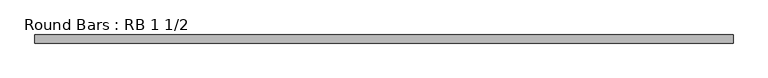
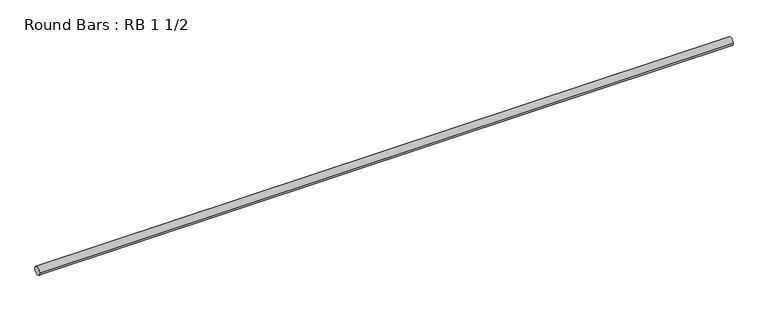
"""IFC4 building model written with IfcOpenShell, lengths in millimetres: member geometry, Round Bars : RB 1 1/2."""

import ifcopenshell
import ifcopenshell.guid

model = None  # the IFC model being written
_history = None  # IfcOwnerHistory: only IFC2X3 demands one
_inside = {}  # id of a spatial element -> (the spatial element, [elements in it])
_under = {}  # id of a project, library or spatial element -> (it, [spatial elements below it])
_declared = {}  # id of a project -> (the project, [libraries it declares])
_typed = {}  # id of a type object -> (the type object, [elements of that type])
_made_of = {}  # id of a material, layer set ... -> (it, [elements and type objects made of it])


def new_model(schema):
    """Start an empty IFC model of exactly this schema.

    Asked for "IFC4X3", IfcOpenShell would pick the latest addendum, in which some entities
    have other attributes; the version numbers below select the first issue.
    IFC2X3 requires an IfcOwnerHistory on every rooted entity: one is made here for all.
    """
    global model, _history
    if schema == "IFC4X3":
        model = ifcopenshell.file(schema_version=(4, 3, 0, 0))
    else:
        model = ifcopenshell.file(schema=schema)
    _inside.clear()
    _under.clear()
    _declared.clear()
    _typed.clear()
    _made_of.clear()
    _history = None
    if model.schema == "IFC2X3":
        org = make("IfcOrganization", Name="unknown")
        user = make(
            "IfcPersonAndOrganization",
            ThePerson=make("IfcPerson", FamilyName="unknown"),
            TheOrganization=org,
        )
        app = make(
            "IfcApplication",
            ApplicationDeveloper=org,
            Version="unknown",
            ApplicationFullName="unknown",
            ApplicationIdentifier="unknown",
        )
        _history = make(
            "IfcOwnerHistory",
            OwningUser=user,
            OwningApplication=app,
            ChangeAction="ADDED",
            CreationDate=0,
        )
    return model


def make(cls, **values):
    """One entity of the class cls with the attributes given. An attribute that is None is left unset."""
    return model.create_entity(
        cls, **{name: value for name, value in values.items() if value is not None}
    )


def rooted(cls, **values):
    """An entity with a GlobalId (a new one), such as an element, a storey or a relation."""
    return make(cls, GlobalId=ifcopenshell.guid.new(), OwnerHistory=_history, **values)


def si_unit(unit_type, name, prefix=None):
    """IfcSIUnit, for example si_unit("LENGTHUNIT", "METRE", prefix="MILLI")."""
    return make("IfcSIUnit", UnitType=unit_type, Prefix=prefix, Name=name)


def assignment(units):
    """IfcUnitAssignment: the units of a project."""
    return None if units is None else make("IfcUnitAssignment", Units=units)


def point(xyz):
    """IfcCartesianPoint."""
    return None if xyz is None else make("IfcCartesianPoint", Coordinates=xyz)


def direction(xyz):
    """IfcDirection."""
    return None if xyz is None else make("IfcDirection", DirectionRatios=xyz)


def frame(location, z_axis=None, x_axis=None):
    """IfcAxis2Placement3D, a coordinate frame: its origin and axes. An axis left out is left unset."""
    return make(
        "IfcAxis2Placement3D",
        Location=point(location),
        Axis=direction(z_axis),
        RefDirection=direction(x_axis),
    )


def frame_2d(location, x_axis=None):
    """IfcAxis2Placement2D, a coordinate frame in the plane: its origin and x axis."""
    return make(
        "IfcAxis2Placement2D", Location=point(location), RefDirection=direction(x_axis)
    )


def origin():
    """The frame at (0, 0, 0) with its axes left unset."""
    return frame((0.0, 0.0, 0.0))


def origin_2d():
    """The frame at (0, 0) in the plane with its x axis left unset."""
    return frame_2d((0.0, 0.0))


def place(relative_to, where):
    """IfcLocalPlacement: puts the frame where relative to a parent placement (None: the world)."""
    return make(
        "IfcLocalPlacement", PlacementRelTo=relative_to, RelativePlacement=where
    )


def context(
    kind, dimensions, precision=None, world=None, true_north=None, identifier=None
):
    """IfcGeometricRepresentationContext, for example the 3D "Model" context."""
    return make(
        "IfcGeometricRepresentationContext",
        ContextIdentifier=identifier,
        ContextType=kind,
        CoordinateSpaceDimension=dimensions,
        Precision=precision,
        WorldCoordinateSystem=world,
        TrueNorth=true_north,
    )


def project(units=None, contexts=None):
    """IfcProject with its units and contexts."""
    return rooted(
        "IfcProject",
        Name="project",
        RepresentationContexts=contexts,
        UnitsInContext=assignment(units),
    )


def spatial(cls, under=None, at=None, **own):
    """A site, building, storey or space (cls), placed at a placement, below another one or the project."""
    s = rooted(cls, ObjectPlacement=at, **own)
    if under is not None:
        _under.setdefault(under.id(), (under, []))[1].append(s)
    return s


def circle_curve(where, radius):
    """IfcCircle in the frame where."""
    return make("IfcCircle", Position=where, Radius=radius)


def trimmed(basis, trim1, trim2, sense, master):
    """IfcTrimmedCurve: the piece of a basis curve between two trims."""
    return make(
        "IfcTrimmedCurve",
        BasisCurve=basis,
        Trim1=trim1,
        Trim2=trim2,
        SenseAgreement=sense,
        MasterRepresentation=master,
    )


def segment(curve, same_sense, transition):
    """IfcCompositeCurveSegment."""
    return make(
        "IfcCompositeCurveSegment",
        Transition=transition,
        SameSense=same_sense,
        ParentCurve=curve,
    )


def composite_curve(segments, self_intersect=None):
    """IfcCompositeCurve: segments joined end to end."""
    return make("IfcCompositeCurve", Segments=segments, SelfIntersect=self_intersect)


def outline(outer, holes=None, kind="AREA"):
    """IfcArbitraryClosedProfileDef: a profile drawn as a closed curve; with holes, ...WithVoids."""
    if holes is None:
        return make("IfcArbitraryClosedProfileDef", ProfileType=kind, OuterCurve=outer)
    return make(
        "IfcArbitraryProfileDefWithVoids",
        ProfileType=kind,
        OuterCurve=outer,
        InnerCurves=holes,
    )


def extrude(swept, where, along, depth):
    """IfcExtrudedAreaSolid: the profile swept, set in the frame where, extruded along a direction by depth."""
    return make(
        "IfcExtrudedAreaSolid",
        SweptArea=swept,
        Position=where,
        ExtrudedDirection=direction(along),
        Depth=depth,
    )


def shape(context_of_items, identifier, shape_type, items):
    """IfcShapeRepresentation: the items that make up one representation, for example the "Body"."""
    return make(
        "IfcShapeRepresentation",
        ContextOfItems=context_of_items,
        RepresentationIdentifier=identifier,
        RepresentationType=shape_type,
        Items=items,
    )


def source(mapping_origin, context_of_items, identifier, shape_type, items):
    """IfcRepresentationMap: a shape defined once, which mapped items show again and again."""
    return make(
        "IfcRepresentationMap",
        MappingOrigin=mapping_origin,
        MappedRepresentation=shape(context_of_items, identifier, shape_type, items),
    )


def transform(
    local_origin,
    x_axis=None,
    y_axis=None,
    z_axis=None,
    scale=None,
    scale2=None,
    scale3=None,
    uniform=True,
):
    """IfcCartesianTransformationOperator3D, or its non-uniform kind. x_axis, y_axis, z_axis: its Axis1, 2, 3."""
    if uniform:
        return make(
            "IfcCartesianTransformationOperator3D",
            Axis1=direction(x_axis),
            Axis2=direction(y_axis),
            LocalOrigin=point(local_origin),
            Scale=scale,
            Axis3=direction(z_axis),
        )
    return make(
        "IfcCartesianTransformationOperator3DnonUniform",
        Axis1=direction(x_axis),
        Axis2=direction(y_axis),
        LocalOrigin=point(local_origin),
        Scale=scale,
        Axis3=direction(z_axis),
        Scale2=scale2,
        Scale3=scale3,
    )


def mapped(mapping_source, mapping_target):
    """IfcMappedItem: shows the shape of a source again, moved by a transform."""
    return make(
        "IfcMappedItem", MappingSource=mapping_source, MappingTarget=mapping_target
    )


def made_of(thing, what):
    """Note that an element or type object is made of a material, layer set ...; save() writes the relation."""
    if what is not None:
        _made_of.setdefault(what.id(), (what, []))[1].append(thing)
    return thing


def element(
    cls,
    number,
    at=None,
    inside=None,
    cuts=None,
    type_object=None,
    material=None,
    context=None,
    identifier="Body",
    shape_type=None,
    held_by="IfcProductDefinitionShape",
    body=None,
    shapes=None,
    **own,
):
    """One element of the class cls, such as IfcWall. Its Tag is "e" and its number.

    at: its placement. inside: the storey or other place that contains it. cuts: it is an
    opening in that element (IfcRelVoidsElement). A single representation is given by context,
    identifier, shape_type and body (its items); several are given by shapes. held_by: the class
    of the entity that holds the representations. save() writes the other relations.
    """
    e = rooted(cls, Tag="e%d" % number, ObjectPlacement=at, **own)
    if body is not None:
        shapes = [shape(context, identifier, shape_type, body)]
    if shapes is not None:
        e.Representation = make(held_by, Representations=shapes)
    if inside is not None:
        _inside.setdefault(inside.id(), (inside, []))[1].append(e)
    if cuts is not None:
        rooted(
            "IfcRelVoidsElement", RelatingBuildingElement=cuts, RelatedOpeningElement=e
        )
    if type_object is not None:
        _typed.setdefault(type_object.id(), (type_object, []))[1].append(e)
    return made_of(e, material)


def aggregate(whole, parts):
    """IfcRelAggregates: a whole, such as a stair, and the parts it consists of."""
    return rooted("IfcRelAggregates", RelatingObject=whole, RelatedObjects=parts)


def save(model, path):
    """Write the relations noted so far, then the file.

    IfcRelAggregates (storeys below a building ...), IfcRelContainedInSpatialStructure (elements
    in a storey), IfcRelDefinesByType, IfcRelAssociatesMaterial and IfcRelDeclares: one each for
    every whole, place, type object, material and project.
    """
    for whole, parts in _under.values():
        aggregate(whole, parts)
    for where, things in _inside.values():
        rooted(
            "IfcRelContainedInSpatialStructure",
            RelatedElements=things,
            RelatingStructure=where,
        )
    for kind, things in _typed.values():
        rooted("IfcRelDefinesByType", RelatedObjects=things, RelatingType=kind)
    for what, things in _made_of.values():
        rooted("IfcRelAssociatesMaterial", RelatedObjects=things, RelatingMaterial=what)
    for by, libraries in _declared.values():
        rooted("IfcRelDeclares", RelatingContext=by, RelatedDefinitions=libraries)
    model.write(path)


def round_bars_rb_1_1_2_ea80a22b(model_context):
    return source(origin(), model_context, "Body", "SweptSolid", [
        extrude(outline(composite_curve([segment(trimmed(circle_curve(origin_2d(), 19.05), [point((19.05, 0.0))], [point((-19.05, 0.0))], False, "CARTESIAN"), True, "CONTINUOUS"), segment(trimmed(circle_curve(origin_2d(), 19.05), [point((-19.05, 0.0))], [point((19.05, 0.0))], False, "CARTESIAN"), True, "CONTINUOUS")], self_intersect=False)), frame((-1670.3790515, 0.0, 0.0), z_axis=(1.0, 0.0, 0.0), x_axis=(0.0, 1.0, 0.0)), (0.0, 0.0, 1.0), 3276.2175945),
    ])


if __name__ == "__main__":
    model = new_model("IFC4")
    model_context = context("Model", 3, world=origin())
    ifc_project = project(units=[si_unit("LENGTHUNIT", "METRE", prefix="MILLI")], contexts=[model_context])
    site = spatial("IfcSite", under=ifc_project)
    building = spatial("IfcBuilding", under=site)
    placement = place(None, origin())
    round_bars_rb_1_1_2_shape = round_bars_rb_1_1_2_ea80a22b(model_context)
    element("IfcMember", 1, ObjectType="Round Bars : RB 1 1/2", at=placement, inside=building, context=model_context, shape_type="MappedRepresentation", body=[
        mapped(round_bars_rb_1_1_2_shape, transform((0.0, 0.0, 0.0), x_axis=(1.0, 0.0, 0.0), y_axis=(0.0, 1.0, 0.0), z_axis=(0.0, 0.0, 1.0))),
    ])
    save(model, "model.ifc")
